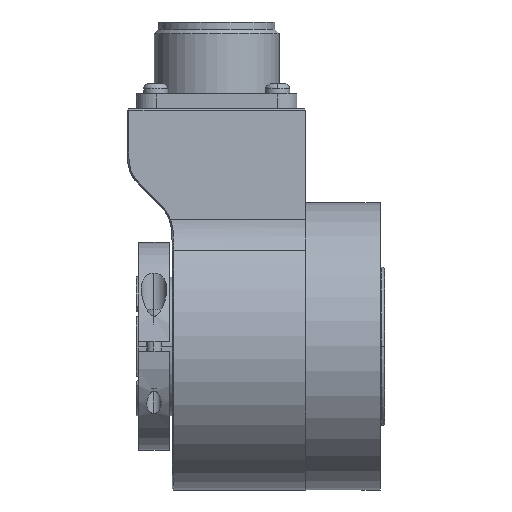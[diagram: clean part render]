
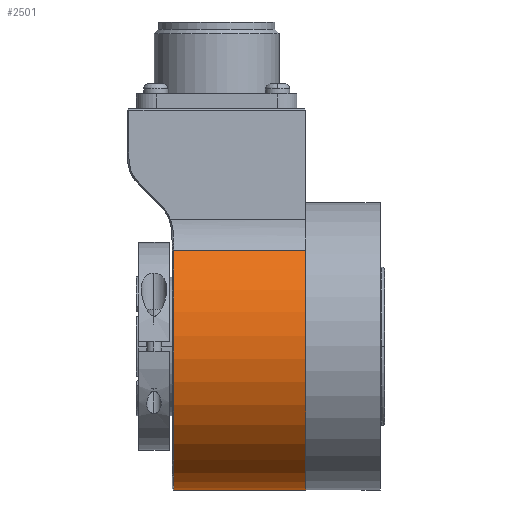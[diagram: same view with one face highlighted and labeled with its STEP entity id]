
A CAD part, front view. The second image highlights one B-rep face of the part: STEP entity #2501.
In plain terms, the highlighted cylindrical face has radius 29 mm (diameter 58 mm), a partial arc.
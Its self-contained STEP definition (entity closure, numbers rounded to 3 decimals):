
#82 = CARTESIAN_POINT ( 'NONE',  ( 0., -21.538, 19.419 ) ) ;
#779 = DIRECTION ( 'NONE',  ( 1., 0., 0. ) ) ;
#810 = CARTESIAN_POINT ( 'NONE',  ( 0., 0., 0. ) ) ;
#1006 = FACE_OUTER_BOUND ( 'NONE', #16846, .T. ) ;
#1391 = AXIS2_PLACEMENT_3D ( 'NONE', #2077, #779, #17393 ) ;
#1558 = ORIENTED_EDGE ( 'NONE', *, *, #13657, .F. ) ;
#1597 = VECTOR ( 'NONE', #16860, 1000. ) ;
#1818 = CARTESIAN_POINT ( 'NONE',  ( 0., 0., -29. ) ) ;
#2077 = CARTESIAN_POINT ( 'NONE',  ( -26.7, 0., 0. ) ) ;
#2501 = ADVANCED_FACE ( 'NONE', ( #1006 ), #19209, .T. ) ;
#2739 = DIRECTION ( 'NONE',  ( 0., 0., -1. ) ) ;
#2836 = CARTESIAN_POINT ( 'NONE',  ( 0., 0., 0. ) ) ;
#3014 = LINE ( 'NONE', #1818, #1597 ) ;
#3293 = CIRCLE ( 'NONE', #1391, 29. ) ;
#3779 = LINE ( 'NONE', #5277, #13147 ) ;
#3887 = ORIENTED_EDGE ( 'NONE', *, *, #16430, .T. ) ;
#5277 = CARTESIAN_POINT ( 'NONE',  ( 0., -21.538, 19.419 ) ) ;
#5373 = DIRECTION ( 'NONE',  ( -1., 0., 0. ) ) ;
#6244 = VERTEX_POINT ( 'NONE', #10349 ) ;
#6881 = DIRECTION ( 'NONE',  ( 0., 0., -1. ) ) ;
#6973 = DIRECTION ( 'NONE',  ( -1., 0., 0. ) ) ;
#9011 = CIRCLE ( 'NONE', #15411, 29. ) ;
#9613 = AXIS2_PLACEMENT_3D ( 'NONE', #810, #6973, #6881 ) ;
#10320 = CARTESIAN_POINT ( 'NONE',  ( -26.7, -21.538, 19.419 ) ) ;
#10349 = CARTESIAN_POINT ( 'NONE',  ( -26.7, 0., -29. ) ) ;
#10677 = ORIENTED_EDGE ( 'NONE', *, *, #15115, .T. ) ;
#11865 = CARTESIAN_POINT ( 'NONE',  ( 0., 0., -29. ) ) ;
#13147 = VECTOR ( 'NONE', #5373, 1000. ) ;
#13657 = EDGE_CURVE ( 'NONE', #15111, #6244, #3014, .T. ) ;
#14209 = VERTEX_POINT ( 'NONE', #10320 ) ;
#15111 = VERTEX_POINT ( 'NONE', #11865 ) ;
#15115 = EDGE_CURVE ( 'NONE', #19463, #14209, #3779, .T. ) ;
#15243 = ORIENTED_EDGE ( 'NONE', *, *, #16297, .T. ) ;
#15411 = AXIS2_PLACEMENT_3D ( 'NONE', #2836, #16386, #2739 ) ;
#16297 = EDGE_CURVE ( 'NONE', #14209, #6244, #3293, .T. ) ;
#16386 = DIRECTION ( 'NONE',  ( -1., 0., 0. ) ) ;
#16430 = EDGE_CURVE ( 'NONE', #15111, #19463, #9011, .T. ) ;
#16846 = EDGE_LOOP ( 'NONE', ( #1558, #3887, #10677, #15243 ) ) ;
#16860 = DIRECTION ( 'NONE',  ( -1., 0., 0. ) ) ;
#17393 = DIRECTION ( 'NONE',  ( 0., 0., -1. ) ) ;
#19209 = CYLINDRICAL_SURFACE ( 'NONE', #9613, 29. ) ;
#19463 = VERTEX_POINT ( 'NONE', #82 ) ;
